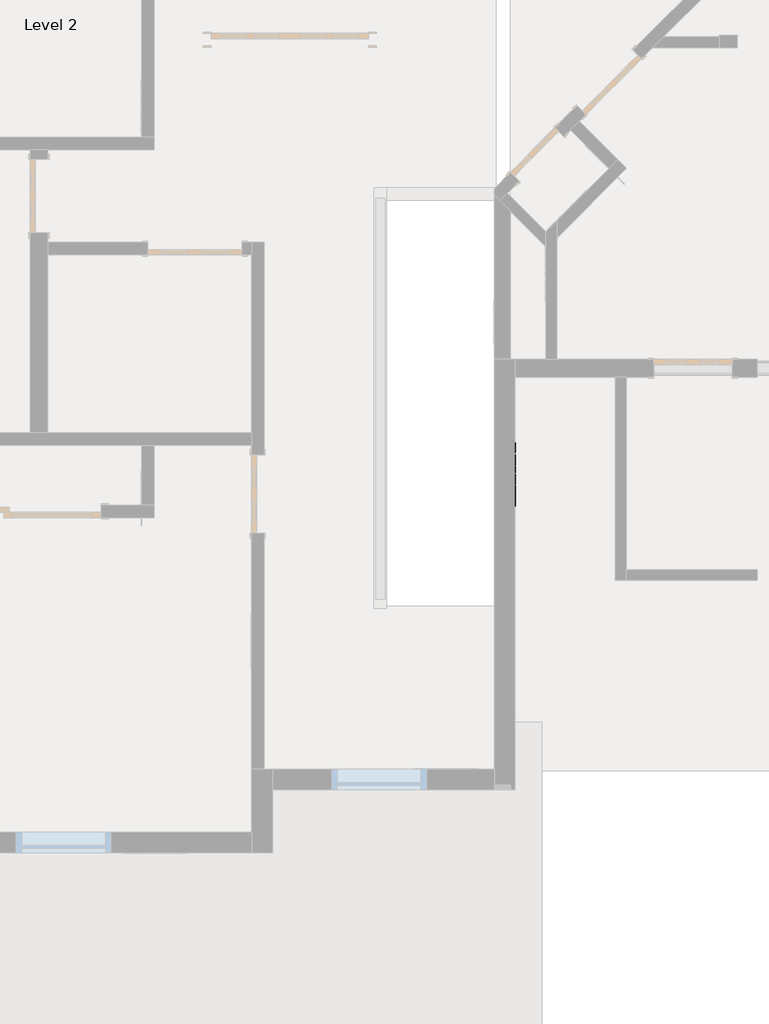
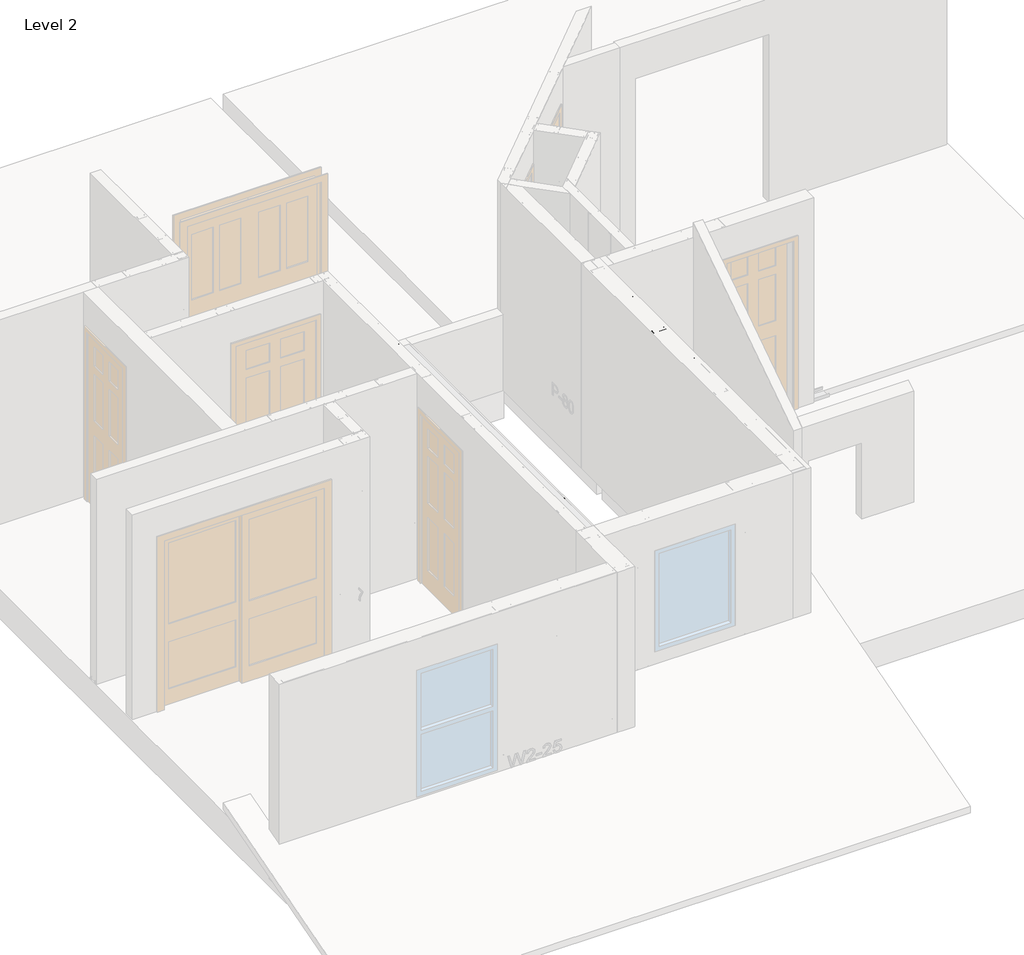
# One storey, part 14 of 46: 7 columns, 2 beams, 2 fasteners.
"""IFC4 building model written with IfcOpenShell, lengths in millimetres."""

from ifc_helpers import new_model, si_unit, point, frame, origin, place, context, project, spatial, circle_curve, ellipse_curve, trimmed, transform, mapped, element, save
from ifc_brep_helpers import plane_surface, extruded_surface, advanced_brep
from components import beam_350nf150_33_4bfafa5c, beam_550nf150_43_71bb0163, panellabel_8b51edb7, panellabel_3d57aa23

model = new_model("IFC4")

# Units and contexts
model_context = context("Model", 3, world=origin())
ifc_project = project(units=[si_unit("LENGTHUNIT", "METRE", prefix="MILLI")], contexts=[model_context])

# Site, building, storey
site = spatial("IfcSite", under=ifc_project)
building = spatial("IfcBuilding", under=site)
storey = spatial("IfcBuildingStorey", under=building, Name="Level 2", Elevation=3060.7)

# Beams
placement = place(None, origin())
beam_350nf150_33_shape = beam_350nf150_33_4bfafa5c(model_context)
element("IfcBeam", 1, ObjectType="BIMSF-SSMA-S : 350NF150-33", at=placement, inside=storey, context=model_context, shape_type="MappedRepresentation", body=[
    mapped(beam_350nf150_33_shape, transform((-11409.4913349, 6593.014721, 3076.575), x_axis=(0.0, 1.0000000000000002, 0.0), y_axis=(0.0, 0.0, -1.0000000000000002), z_axis=(-1.0000000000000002, 0.0, 0.0))),
])
beam_550nf150_43_shape = beam_550nf150_43_71bb0163(model_context)
element("IfcBeam", 2, ObjectType="BIMSF-SSMA-S : 550NF150-43", at=placement, inside=storey, context=model_context, shape_type="MappedRepresentation", body=[
    mapped(beam_550nf150_43_shape, transform((-9034.5913349, 4473.702221, 3076.575), x_axis=(0.0, -1.0000000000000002, 0.0), y_axis=(0.0, 0.0, -1.0000000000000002), z_axis=(1.0000000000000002, 0.0, 0.0))),
])

# Columns
element("IfcColumn", 3, ObjectType="BIMSF-SSMA-S-Column : 350NF150-33", at=placement, inside=storey, context=model_context, shape_type="AdvancedBrep", body=[
    advanced_brep(
    [(-11365.0413349, 6200.902221, 3061.5929687), (-11453.9413349, 6200.902221, 3061.5929687), (-11453.9413349, 6239.002221, 3061.5929687), (-11448.2838191, 6239.002221, 3061.5929687), (-11448.2838191, 6238.1199052, 3061.5929687), (-11453.0590191, 6238.1199052, 3061.5929687), (-11453.0590191, 6201.7845367, 3061.5929687), (-11365.9236507, 6201.7845367, 3061.5929687), (-11365.9236507, 6238.1199052, 3061.5929687), (-11370.6988507, 6238.1199052, 3061.5929687), (-11370.6988507, 6239.002221, 3061.5929687), (-11365.0413349, 6239.002221, 3061.5929687), (-11365.0413349, 6200.902221, 5523.6070313), (-11453.9413349, 6200.902221, 5523.6070313), (-11422.1913349, 6200.902221, 3671.1929687), (-11396.7913349, 6200.902221, 3671.1929687), (-11422.1913349, 6200.902221, 4890.3929687), (-11396.7913349, 6200.902221, 4890.3929687), (-11453.9413349, 6239.002221, 5523.6070313), (-11448.2838191, 6239.002221, 5523.6070313), (-11448.2838191, 6238.1199052, 5523.6070313), (-11453.0590191, 6238.1199052, 5523.6070313), (-11453.0590191, 6201.7845367, 5523.6070313), (-11365.9236507, 6201.7845367, 5523.6070313), (-11396.7913349, 6201.7845367, 3671.1929688), (-11422.1913349, 6201.7845367, 3671.1929688), (-11396.7913349, 6201.7845367, 4890.3929687), (-11422.1913349, 6201.7845367, 4890.3929687), (-11365.9236507, 6238.1199052, 5523.6070313), (-11370.6988507, 6238.1199052, 5523.6070313), (-11370.6988507, 6239.002221, 5523.6070313), (-11365.0413349, 6239.002221, 5523.6070313)],
    [
        (0, 1),
        (1, 2),
        (2, 3),
        (3, 4),
        (4, 5),
        (5, 6),
        (6, 7),
        (7, 8),
        (8, 9),
        (9, 10),
        (10, 11),
        (11, 0),
        (0, 12),
        (12, 13),
        (13, 1),
        (14, 15, circle_curve(frame((-11409.4913349, 6200.902221, 3671.1929687), z_axis=(0.0, 1.0, 0.0), x_axis=(-1.0, 0.0, 0.0)), 12.7)),
        (15, 14, circle_curve(frame((-11409.4913349, 6200.902221, 3671.1929688), z_axis=(0.0, 1.0, 0.0), x_axis=(-1.0, 0.0, 0.0)), 12.7)),
        (16, 17, circle_curve(frame((-11409.4913349, 6200.902221, 4890.3929687), z_axis=(0.0, 1.0, 0.0), x_axis=(-1.0, 0.0, 0.0)), 12.7)),
        (17, 16, circle_curve(frame((-11409.4913349, 6200.902221, 4890.3929687), z_axis=(0.0, 1.0, 0.0), x_axis=(-1.0, 0.0, 0.0)), 12.7)),
        (13, 18),
        (18, 2),
        (18, 19),
        (19, 3),
        (19, 20),
        (20, 4),
        (20, 21),
        (21, 5),
        (21, 22),
        (22, 6),
        (22, 23),
        (23, 7),
        (24, 25, circle_curve(frame((-11409.4913349, 6201.7845367, 3671.1929687), z_axis=(0.0, -1.0, 0.0), x_axis=(-1.0, 0.0, 0.0)), 12.7)),
        (25, 24, circle_curve(frame((-11409.4913349, 6201.7845367, 3671.1929687), z_axis=(0.0, -1.0, 0.0), x_axis=(-1.0, 0.0, 0.0)), 12.7)),
        (26, 27, circle_curve(frame((-11409.4913349, 6201.7845367, 4890.3929687), z_axis=(0.0, -1.0, 0.0), x_axis=(-1.0, 0.0, 0.0)), 12.7)),
        (27, 26, circle_curve(frame((-11409.4913349, 6201.7845367, 4890.3929687), z_axis=(0.0, -1.0, 0.0), x_axis=(-1.0, 0.0, 0.0)), 12.7)),
        (23, 28),
        (28, 8),
        (28, 29),
        (29, 9),
        (29, 30),
        (30, 10),
        (30, 31),
        (31, 11),
        (31, 12),
        (24, 15),
        (14, 25),
        (26, 17),
        (16, 27),
    ],
    [
        plane_surface(frame((-11365.0413349, 6200.902221, 3061.5929687), z_axis=(0.0, 0.0, -1.0), x_axis=(0.0, -1.0, 0.0))),
        plane_surface(frame((-11453.9413349, 6200.902221, 5523.6070313), z_axis=(0.0, -1.0, 0.0), x_axis=(0.0, 0.0, -1.0))),
        plane_surface(frame((-11453.9413349, 6239.002221, 5523.6070313), z_axis=(-1.0, 0.0, 0.0), x_axis=(0.0, 0.0, -1.0))),
        plane_surface(frame((-11448.2838191, 6239.002221, 5523.6070313), z_axis=(0.0, 1.0, 0.0), x_axis=(0.0, 0.0, -1.0))),
        plane_surface(frame((-11448.2838191, 6238.1199052, 5523.6070313), z_axis=(1.0, 0.0, 0.0), x_axis=(0.0, 0.0, -1.0))),
        plane_surface(frame((-11453.0590191, 6238.1199052, 5523.6070313), z_axis=(0.0, -1.0, 0.0), x_axis=(0.0, 0.0, -1.0))),
        plane_surface(frame((-11453.0590191, 6201.7845367, 5523.6070313), z_axis=(1.0, 0.0, 0.0), x_axis=(0.0, 0.0, -1.0))),
        plane_surface(frame((-11365.9236507, 6201.7845367, 5523.6070313), z_axis=(0.0, 1.0, 0.0), x_axis=(0.0, 0.0, -1.0))),
        plane_surface(frame((-11365.9236507, 6238.1199052, 5523.6070313), z_axis=(-1.0, 0.0, 0.0), x_axis=(0.0, 0.0, -1.0))),
        plane_surface(frame((-11370.6988507, 6238.1199052, 5523.6070313), z_axis=(0.0, -1.0, 0.0), x_axis=(0.0, 0.0, -1.0))),
        plane_surface(frame((-11370.6988507, 6239.002221, 5523.6070313), z_axis=(-1.0, 0.0, 0.0), x_axis=(0.0, 0.0, -1.0))),
        plane_surface(frame((-11365.0413349, 6239.002221, 5523.6070313), z_axis=(0.0, 1.0, 0.0), x_axis=(0.0, 0.0, -1.0))),
        plane_surface(frame((-11365.0413349, 6200.902221, 5523.6070313), z_axis=(1.0, 0.0, 0.0), x_axis=(0.0, 0.0, -1.0))),
        plane_surface(frame((-11365.0413349, 6200.902221, 5523.6070313), z_axis=(0.0, 0.0, 1.0), x_axis=(0.0, 1.0, 0.0))),
        extruded_surface(trimmed(ellipse_curve(frame((-11409.4913349, 8681.9662835, 3671.1929688), z_axis=(0.0, -1.0, 0.0), x_axis=(-1.0, 0.0, 0.0)), 12.7, 12.7), [point((-11396.7913349, 8681.9662835, 3671.1929688))], [point((-11422.1913349, 8681.9662835, 3671.1929688))], True, "CARTESIAN"), (0.0, 4924.028125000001, 0.0), 4924.028125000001),
        extruded_surface(trimmed(ellipse_curve(frame((-11409.4913349, 8681.9662835, 3671.1929688), z_axis=(0.0, -1.0, 0.0), x_axis=(-1.0, 0.0, 0.0)), 12.7, 12.7), [point((-11422.1913349, 8681.9662835, 3671.1929688))], [point((-11396.7913349, 8681.9662835, 3671.1929688))], True, "CARTESIAN"), (0.0, 4924.028125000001, 0.0), 4924.028125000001),
        extruded_surface(trimmed(ellipse_curve(frame((-11409.4913349, 8681.9662835, 4890.3929687), z_axis=(0.0, -1.0, 0.0), x_axis=(-1.0, 0.0, 0.0)), 12.7, 12.7), [point((-11396.7913349, 8681.9662835, 4890.3929687))], [point((-11422.1913349, 8681.9662835, 4890.3929687))], True, "CARTESIAN"), (0.0, 4924.028125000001, 0.0), 4924.028125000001),
        extruded_surface(trimmed(ellipse_curve(frame((-11409.4913349, 8681.9662835, 4890.3929687), z_axis=(0.0, -1.0, 0.0), x_axis=(-1.0, 0.0, 0.0)), 12.7, 12.7), [point((-11422.1913349, 8681.9662835, 4890.3929687))], [point((-11396.7913349, 8681.9662835, 4890.3929687))], True, "CARTESIAN"), (0.0, 4924.028125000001, 0.0), 4924.028125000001),
    ],
    [
        (0, [[1, 2, 3, 4, 5, 6, 7, 8, 9, 10, 11, 12]]),
        (1, [[-1, 13, 14, 15], [16, 17], [18, 19]]),
        (2, [[-2, -15, 20, 21]]),
        (3, [[-3, -21, 22, 23]]),
        (4, [[-4, -23, 24, 25]]),
        (5, [[-5, -25, 26, 27]]),
        (6, [[-6, -27, 28, 29]]),
        (7, [[-7, -29, 30, 31], [32, 33], [34, 35]]),
        (8, [[-8, -31, 36, 37]]),
        (9, [[-9, -37, 38, 39]]),
        (10, [[-10, -39, 40, 41]]),
        (11, [[-11, -41, 42, 43]]),
        (12, [[-12, -43, 44, -13]]),
        (13, [[-14, -44, -42, -40, -38, -36, -30, -28, -26, -24, -22, -20]]),
        (14, [[45, -16, 46, -32]]),
        (15, [[-45, -33, -46, -17]]),
        (16, [[47, -18, 48, -34]]),
        (17, [[-47, -35, -48, -19]]),
    ],
),
])
element("IfcColumn", 4, ObjectType="BIMSF-SSMA-S-Column : 350NF150-33", at=placement, inside=storey, context=model_context, shape_type="AdvancedBrep", body=[
    advanced_brep(
    [(-10177.5913349, 5013.1849099, 3061.5929687), (-10266.4913349, 5013.1849099, 3061.5929687), (-10266.4913349, 5051.2849099, 3061.5929687), (-10260.8338191, 5051.2849099, 3061.5929687), (-10260.8338191, 5050.4025941, 3061.5929687), (-10265.6090191, 5050.4025941, 3061.5929687), (-10265.6090191, 5014.0672257, 3061.5929687), (-10178.4736507, 5014.0672257, 3061.5929687), (-10178.4736507, 5050.4025941, 3061.5929687), (-10183.2488507, 5050.4025941, 3061.5929687), (-10183.2488507, 5051.2849099, 3061.5929687), (-10177.5913349, 5051.2849099, 3061.5929687), (-10177.5913349, 5013.1849099, 3974.2070312), (-10266.4913349, 5013.1849099, 3974.2070312), (-10234.7413349, 5013.1849099, 3671.1929688), (-10209.3413349, 5013.1849099, 3671.1929688), (-10266.4913349, 5051.2849099, 3974.2070312), (-10260.8338191, 5051.2849099, 3974.2070312), (-10260.8338191, 5050.4025941, 3974.2070312), (-10265.6090191, 5050.4025941, 3974.2070312), (-10265.6090191, 5014.0672257, 3974.2070312), (-10178.4736507, 5014.0672257, 3974.2070312), (-10209.3413349, 5014.0672257, 3671.1929688), (-10234.7413349, 5014.0672257, 3671.1929688), (-10178.4736507, 5050.4025941, 3974.2070312), (-10183.2488507, 5050.4025941, 3974.2070312), (-10183.2488507, 5051.2849099, 3974.2070312), (-10177.5913349, 5051.2849099, 3974.2070312)],
    [
        (0, 1),
        (1, 2),
        (2, 3),
        (3, 4),
        (4, 5),
        (5, 6),
        (6, 7),
        (7, 8),
        (8, 9),
        (9, 10),
        (10, 11),
        (11, 0),
        (0, 12),
        (12, 13),
        (13, 1),
        (14, 15, circle_curve(frame((-10222.0413349, 5013.1849099, 3671.1929688), z_axis=(0.0, 1.0, 0.0), x_axis=(-1.0, 0.0, 0.0)), 12.7)),
        (15, 14, circle_curve(frame((-10222.0413349, 5013.1849099, 3671.1929688), z_axis=(0.0, 1.0, 0.0), x_axis=(-1.0, 0.0, 0.0)), 12.7)),
        (13, 16),
        (16, 2),
        (16, 17),
        (17, 3),
        (17, 18),
        (18, 4),
        (18, 19),
        (19, 5),
        (19, 20),
        (20, 6),
        (20, 21),
        (21, 7),
        (22, 23, circle_curve(frame((-10222.0413349, 5014.0672257, 3671.1929688), z_axis=(0.0, -1.0, 0.0), x_axis=(-1.0, 0.0, 0.0)), 12.7)),
        (23, 22, circle_curve(frame((-10222.0413349, 5014.0672257, 3671.1929688), z_axis=(0.0, -1.0, 0.0), x_axis=(-1.0, 0.0, 0.0)), 12.7)),
        (21, 24),
        (24, 8),
        (24, 25),
        (25, 9),
        (25, 26),
        (26, 10),
        (26, 27),
        (27, 11),
        (27, 12),
        (22, 15),
        (14, 23),
    ],
    [
        plane_surface(frame((-10177.5913349, 5013.1849099, 3061.5929687), z_axis=(0.0, 0.0, -1.0), x_axis=(0.0, -1.0, 0.0))),
        plane_surface(frame((-10266.4913349, 5013.1849099, 3974.2070312), z_axis=(0.0, -1.0, 0.0), x_axis=(0.0, 0.0, -1.0))),
        plane_surface(frame((-10266.4913349, 5051.2849099, 3974.2070312), z_axis=(-1.0, 0.0, 0.0), x_axis=(0.0, 0.0, -1.0))),
        plane_surface(frame((-10260.8338191, 5051.2849099, 3974.2070312), z_axis=(0.0, 1.0, 0.0), x_axis=(0.0, 0.0, -1.0))),
        plane_surface(frame((-10260.8338191, 5050.4025941, 3974.2070312), z_axis=(1.0, 0.0, 0.0), x_axis=(0.0, 0.0, -1.0))),
        plane_surface(frame((-10265.6090191, 5050.4025941, 3974.2070312), z_axis=(0.0, -1.0, 0.0), x_axis=(0.0, 0.0, -1.0))),
        plane_surface(frame((-10265.6090191, 5014.0672257, 3974.2070312), z_axis=(1.0, 0.0, 0.0), x_axis=(0.0, 0.0, -1.0))),
        plane_surface(frame((-10178.4736507, 5014.0672257, 3974.2070312), z_axis=(0.0, 1.0, 0.0), x_axis=(0.0, 0.0, -1.0))),
        plane_surface(frame((-10178.4736507, 5050.4025941, 3974.2070312), z_axis=(-1.0, 0.0, 0.0), x_axis=(0.0, 0.0, -1.0))),
        plane_surface(frame((-10183.2488507, 5050.4025941, 3974.2070312), z_axis=(0.0, -1.0, 0.0), x_axis=(0.0, 0.0, -1.0))),
        plane_surface(frame((-10183.2488507, 5051.2849099, 3974.2070312), z_axis=(-1.0, 0.0, 0.0), x_axis=(0.0, 0.0, -1.0))),
        plane_surface(frame((-10177.5913349, 5051.2849099, 3974.2070312), z_axis=(0.0, 1.0, 0.0), x_axis=(0.0, 0.0, -1.0))),
        plane_surface(frame((-10177.5913349, 5013.1849099, 3974.2070312), z_axis=(1.0, 0.0, 0.0), x_axis=(0.0, 0.0, -1.0))),
        plane_surface(frame((-10177.5913349, 5013.1849099, 3974.2070312), z_axis=(0.0, 0.0, 1.0), x_axis=(0.0, 1.0, 0.0))),
        extruded_surface(trimmed(ellipse_curve(frame((-10222.0413349, 5944.8489724, 3671.1929688), z_axis=(0.0, -1.0, 0.0), x_axis=(-1.0, 0.0, 0.0)), 12.7, 12.7), [point((-10209.3413349, 5944.8489724, 3671.1929688))], [point((-10234.7413349, 5944.8489724, 3671.1929688))], True, "CARTESIAN"), (0.0, 1825.2281249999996, 0.0), 1825.2281249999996),
        extruded_surface(trimmed(ellipse_curve(frame((-10222.0413349, 5944.8489724, 3671.1929688), z_axis=(0.0, -1.0, 0.0), x_axis=(-1.0, 0.0, 0.0)), 12.7, 12.7), [point((-10234.7413349, 5944.8489724, 3671.1929688))], [point((-10209.3413349, 5944.8489724, 3671.1929688))], True, "CARTESIAN"), (0.0, 1825.2281249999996, 0.0), 1825.2281249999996),
    ],
    [
        (0, [[1, 2, 3, 4, 5, 6, 7, 8, 9, 10, 11, 12]]),
        (1, [[-1, 13, 14, 15], [16, 17]]),
        (2, [[-2, -15, 18, 19]]),
        (3, [[-3, -19, 20, 21]]),
        (4, [[-4, -21, 22, 23]]),
        (5, [[-5, -23, 24, 25]]),
        (6, [[-6, -25, 26, 27]]),
        (7, [[-7, -27, 28, 29], [30, 31]]),
        (8, [[-8, -29, 32, 33]]),
        (9, [[-9, -33, 34, 35]]),
        (10, [[-10, -35, 36, 37]]),
        (11, [[-11, -37, 38, 39]]),
        (12, [[-12, -39, 40, -13]]),
        (13, [[-14, -40, -38, -36, -34, -32, -28, -26, -24, -22, -20, -18]]),
        (14, [[41, -16, 42, -30]]),
        (15, [[-41, -31, -42, -17]]),
    ],
),
])
element("IfcColumn", 5, ObjectType="BIMSF-SSMA-S-Column : 350NF150-33", at=placement, inside=storey, context=model_context, shape_type="AdvancedBrep", body=[
    advanced_brep(
    [(-10177.5913349, 5419.5849099, 3061.5929687), (-10266.4913349, 5419.5849099, 3061.5929687), (-10266.4913349, 5457.6849099, 3061.5929687), (-10260.8338191, 5457.6849099, 3061.5929687), (-10260.8338191, 5456.8025941, 3061.5929687), (-10265.6090191, 5456.8025941, 3061.5929687), (-10265.6090191, 5420.4672257, 3061.5929687), (-10178.4736507, 5420.4672257, 3061.5929687), (-10178.4736507, 5456.8025941, 3061.5929687), (-10183.2488507, 5456.8025941, 3061.5929687), (-10183.2488507, 5457.6849099, 3061.5929687), (-10177.5913349, 5457.6849099, 3061.5929687), (-10177.5913349, 5419.5849099, 3974.2070312), (-10266.4913349, 5419.5849099, 3974.2070312), (-10234.7413349, 5419.5849099, 3671.1929688), (-10209.3413349, 5419.5849099, 3671.1929688), (-10266.4913349, 5457.6849099, 3974.2070312), (-10260.8338191, 5457.6849099, 3974.2070312), (-10260.8338191, 5456.8025941, 3974.2070312), (-10265.6090191, 5456.8025941, 3974.2070312), (-10265.6090191, 5420.4672257, 3974.2070312), (-10178.4736507, 5420.4672257, 3974.2070312), (-10209.3413349, 5420.4672257, 3671.1929688), (-10234.7413349, 5420.4672257, 3671.1929688), (-10178.4736507, 5456.8025941, 3974.2070312), (-10183.2488507, 5456.8025941, 3974.2070312), (-10183.2488507, 5457.6849099, 3974.2070312), (-10177.5913349, 5457.6849099, 3974.2070312)],
    [
        (0, 1),
        (1, 2),
        (2, 3),
        (3, 4),
        (4, 5),
        (5, 6),
        (6, 7),
        (7, 8),
        (8, 9),
        (9, 10),
        (10, 11),
        (11, 0),
        (0, 12),
        (12, 13),
        (13, 1),
        (14, 15, circle_curve(frame((-10222.0413349, 5419.5849099, 3671.1929688), z_axis=(0.0, 1.0, 0.0), x_axis=(-1.0, 0.0, 0.0)), 12.7)),
        (15, 14, circle_curve(frame((-10222.0413349, 5419.5849099, 3671.1929688), z_axis=(0.0, 1.0, 0.0), x_axis=(-1.0, 0.0, 0.0)), 12.7)),
        (13, 16),
        (16, 2),
        (16, 17),
        (17, 3),
        (17, 18),
        (18, 4),
        (18, 19),
        (19, 5),
        (19, 20),
        (20, 6),
        (20, 21),
        (21, 7),
        (22, 23, circle_curve(frame((-10222.0413349, 5420.4672257, 3671.1929688), z_axis=(0.0, -1.0, 0.0), x_axis=(-1.0, 0.0, 0.0)), 12.7)),
        (23, 22, circle_curve(frame((-10222.0413349, 5420.4672257, 3671.1929688), z_axis=(0.0, -1.0, 0.0), x_axis=(-1.0, 0.0, 0.0)), 12.7)),
        (21, 24),
        (24, 8),
        (24, 25),
        (25, 9),
        (25, 26),
        (26, 10),
        (26, 27),
        (27, 11),
        (27, 12),
        (22, 15),
        (14, 23),
    ],
    [
        plane_surface(frame((-10177.5913349, 5419.5849099, 3061.5929687), z_axis=(0.0, 0.0, -1.0), x_axis=(0.0, -1.0, 0.0))),
        plane_surface(frame((-10266.4913349, 5419.5849099, 3974.2070312), z_axis=(0.0, -1.0, 0.0), x_axis=(0.0, 0.0, -1.0))),
        plane_surface(frame((-10266.4913349, 5457.6849099, 3974.2070312), z_axis=(-1.0, 0.0, 0.0), x_axis=(0.0, 0.0, -1.0))),
        plane_surface(frame((-10260.8338191, 5457.6849099, 3974.2070312), z_axis=(0.0, 1.0, 0.0), x_axis=(0.0, 0.0, -1.0))),
        plane_surface(frame((-10260.8338191, 5456.8025941, 3974.2070312), z_axis=(1.0, 0.0, 0.0), x_axis=(0.0, 0.0, -1.0))),
        plane_surface(frame((-10265.6090191, 5456.8025941, 3974.2070312), z_axis=(0.0, -1.0, 0.0), x_axis=(0.0, 0.0, -1.0))),
        plane_surface(frame((-10265.6090191, 5420.4672257, 3974.2070312), z_axis=(1.0, 0.0, 0.0), x_axis=(0.0, 0.0, -1.0))),
        plane_surface(frame((-10178.4736507, 5420.4672257, 3974.2070312), z_axis=(0.0, 1.0, 0.0), x_axis=(0.0, 0.0, -1.0))),
        plane_surface(frame((-10178.4736507, 5456.8025941, 3974.2070312), z_axis=(-1.0, 0.0, 0.0), x_axis=(0.0, 0.0, -1.0))),
        plane_surface(frame((-10183.2488507, 5456.8025941, 3974.2070312), z_axis=(0.0, -1.0, 0.0), x_axis=(0.0, 0.0, -1.0))),
        plane_surface(frame((-10183.2488507, 5457.6849099, 3974.2070312), z_axis=(-1.0, 0.0, 0.0), x_axis=(0.0, 0.0, -1.0))),
        plane_surface(frame((-10177.5913349, 5457.6849099, 3974.2070312), z_axis=(0.0, 1.0, 0.0), x_axis=(0.0, 0.0, -1.0))),
        plane_surface(frame((-10177.5913349, 5419.5849099, 3974.2070312), z_axis=(1.0, 0.0, 0.0), x_axis=(0.0, 0.0, -1.0))),
        plane_surface(frame((-10177.5913349, 5419.5849099, 3974.2070312), z_axis=(0.0, 0.0, 1.0), x_axis=(0.0, 1.0, 0.0))),
        extruded_surface(trimmed(ellipse_curve(frame((-10222.0413349, 6351.2489724, 3671.1929688), z_axis=(0.0, -1.0, 0.0), x_axis=(-1.0, 0.0, 0.0)), 12.7, 12.7), [point((-10209.3413349, 6351.2489724, 3671.1929688))], [point((-10234.7413349, 6351.2489724, 3671.1929688))], True, "CARTESIAN"), (0.0, 1825.2281250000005, 0.0), 1825.2281250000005),
        extruded_surface(trimmed(ellipse_curve(frame((-10222.0413349, 6351.2489724, 3671.1929688), z_axis=(0.0, -1.0, 0.0), x_axis=(-1.0, 0.0, 0.0)), 12.7, 12.7), [point((-10234.7413349, 6351.2489724, 3671.1929688))], [point((-10209.3413349, 6351.2489724, 3671.1929688))], True, "CARTESIAN"), (0.0, 1825.2281250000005, 0.0), 1825.2281250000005),
    ],
    [
        (0, [[1, 2, 3, 4, 5, 6, 7, 8, 9, 10, 11, 12]]),
        (1, [[-1, 13, 14, 15], [16, 17]]),
        (2, [[-2, -15, 18, 19]]),
        (3, [[-3, -19, 20, 21]]),
        (4, [[-4, -21, 22, 23]]),
        (5, [[-5, -23, 24, 25]]),
        (6, [[-6, -25, 26, 27]]),
        (7, [[-7, -27, 28, 29], [30, 31]]),
        (8, [[-8, -29, 32, 33]]),
        (9, [[-9, -33, 34, 35]]),
        (10, [[-10, -35, 36, 37]]),
        (11, [[-11, -37, 38, 39]]),
        (12, [[-12, -39, 40, -13]]),
        (13, [[-14, -40, -38, -36, -34, -32, -28, -26, -24, -22, -20, -18]]),
        (14, [[41, -16, 42, -30]]),
        (15, [[-41, -31, -42, -17]]),
    ],
),
])
element("IfcColumn", 6, ObjectType="BIMSF-SSMA-S-Column : 350NF150-33", at=placement, inside=storey, context=model_context, shape_type="AdvancedBrep", body=[
    advanced_brep(
    [(-10177.5913349, 5825.9849099, 3061.5929687), (-10266.4913349, 5825.9849099, 3061.5929687), (-10266.4913349, 5864.0849099, 3061.5929687), (-10260.8338191, 5864.0849099, 3061.5929687), (-10260.8338191, 5863.2025941, 3061.5929687), (-10265.6090191, 5863.2025941, 3061.5929687), (-10265.6090191, 5826.8672257, 3061.5929687), (-10178.4736507, 5826.8672257, 3061.5929687), (-10178.4736507, 5863.2025941, 3061.5929687), (-10183.2488507, 5863.2025941, 3061.5929687), (-10183.2488507, 5864.0849099, 3061.5929687), (-10177.5913349, 5864.0849099, 3061.5929687), (-10177.5913349, 5825.9849099, 3974.2070312), (-10266.4913349, 5825.9849099, 3974.2070312), (-10234.7413349, 5825.9849099, 3671.1929688), (-10209.3413349, 5825.9849099, 3671.1929688), (-10266.4913349, 5864.0849099, 3974.2070312), (-10260.8338191, 5864.0849099, 3974.2070312), (-10260.8338191, 5863.2025941, 3974.2070312), (-10265.6090191, 5863.2025941, 3974.2070312), (-10265.6090191, 5826.8672257, 3974.2070312), (-10178.4736507, 5826.8672257, 3974.2070312), (-10209.3413349, 5826.8672257, 3671.1929688), (-10234.7413349, 5826.8672257, 3671.1929688), (-10178.4736507, 5863.2025941, 3974.2070312), (-10183.2488507, 5863.2025941, 3974.2070312), (-10183.2488507, 5864.0849099, 3974.2070312), (-10177.5913349, 5864.0849099, 3974.2070312)],
    [
        (0, 1),
        (1, 2),
        (2, 3),
        (3, 4),
        (4, 5),
        (5, 6),
        (6, 7),
        (7, 8),
        (8, 9),
        (9, 10),
        (10, 11),
        (11, 0),
        (0, 12),
        (12, 13),
        (13, 1),
        (14, 15, circle_curve(frame((-10222.0413349, 5825.9849099, 3671.1929687), z_axis=(0.0, 1.0, 0.0), x_axis=(-1.0, 0.0, 0.0)), 12.7)),
        (15, 14, circle_curve(frame((-10222.0413349, 5825.9849099, 3671.1929688), z_axis=(0.0, 1.0, 0.0), x_axis=(-1.0, 0.0, 0.0)), 12.7)),
        (13, 16),
        (16, 2),
        (16, 17),
        (17, 3),
        (17, 18),
        (18, 4),
        (18, 19),
        (19, 5),
        (19, 20),
        (20, 6),
        (20, 21),
        (21, 7),
        (22, 23, circle_curve(frame((-10222.0413349, 5826.8672257, 3671.1929688), z_axis=(0.0, -1.0, 0.0), x_axis=(-1.0, 0.0, 0.0)), 12.7)),
        (23, 22, circle_curve(frame((-10222.0413349, 5826.8672257, 3671.1929688), z_axis=(0.0, -1.0, 0.0), x_axis=(-1.0, 0.0, 0.0)), 12.7)),
        (21, 24),
        (24, 8),
        (24, 25),
        (25, 9),
        (25, 26),
        (26, 10),
        (26, 27),
        (27, 11),
        (27, 12),
        (22, 15),
        (14, 23),
    ],
    [
        plane_surface(frame((-10177.5913349, 5825.9849099, 3061.5929687), z_axis=(0.0, 0.0, -1.0), x_axis=(0.0, -1.0, 0.0))),
        plane_surface(frame((-10266.4913349, 5825.9849099, 3974.2070312), z_axis=(0.0, -1.0, 0.0), x_axis=(0.0, 0.0, -1.0))),
        plane_surface(frame((-10266.4913349, 5864.0849099, 3974.2070312), z_axis=(-1.0, 0.0, 0.0), x_axis=(0.0, 0.0, -1.0))),
        plane_surface(frame((-10260.8338191, 5864.0849099, 3974.2070312), z_axis=(0.0, 1.0, 0.0), x_axis=(0.0, 0.0, -1.0))),
        plane_surface(frame((-10260.8338191, 5863.2025941, 3974.2070312), z_axis=(1.0, 0.0, 0.0), x_axis=(0.0, 0.0, -1.0))),
        plane_surface(frame((-10265.6090191, 5863.2025941, 3974.2070312), z_axis=(0.0, -1.0, 0.0), x_axis=(0.0, 0.0, -1.0))),
        plane_surface(frame((-10265.6090191, 5826.8672257, 3974.2070312), z_axis=(1.0, 0.0, 0.0), x_axis=(0.0, 0.0, -1.0))),
        plane_surface(frame((-10178.4736507, 5826.8672257, 3974.2070312), z_axis=(0.0, 1.0, 0.0), x_axis=(0.0, 0.0, -1.0))),
        plane_surface(frame((-10178.4736507, 5863.2025941, 3974.2070312), z_axis=(-1.0, 0.0, 0.0), x_axis=(0.0, 0.0, -1.0))),
        plane_surface(frame((-10183.2488507, 5863.2025941, 3974.2070312), z_axis=(0.0, -1.0, 0.0), x_axis=(0.0, 0.0, -1.0))),
        plane_surface(frame((-10183.2488507, 5864.0849099, 3974.2070312), z_axis=(-1.0, 0.0, 0.0), x_axis=(0.0, 0.0, -1.0))),
        plane_surface(frame((-10177.5913349, 5864.0849099, 3974.2070312), z_axis=(0.0, 1.0, 0.0), x_axis=(0.0, 0.0, -1.0))),
        plane_surface(frame((-10177.5913349, 5825.9849099, 3974.2070312), z_axis=(1.0, 0.0, 0.0), x_axis=(0.0, 0.0, -1.0))),
        plane_surface(frame((-10177.5913349, 5825.9849099, 3974.2070312), z_axis=(0.0, 0.0, 1.0), x_axis=(0.0, 1.0, 0.0))),
        extruded_surface(trimmed(ellipse_curve(frame((-10222.0413349, 6757.6489724, 3671.1929688), z_axis=(0.0, -1.0, 0.0), x_axis=(-1.0, 0.0, 0.0)), 12.7, 12.7), [point((-10209.3413349, 6757.6489724, 3671.1929688))], [point((-10234.7413349, 6757.6489724, 3671.1929688))], True, "CARTESIAN"), (0.0, 1825.2281249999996, 0.0), 1825.2281249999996),
        extruded_surface(trimmed(ellipse_curve(frame((-10222.0413349, 6757.6489724, 3671.1929688), z_axis=(0.0, -1.0, 0.0), x_axis=(-1.0, 0.0, 0.0)), 12.7, 12.7), [point((-10234.7413349, 6757.6489724, 3671.1929688))], [point((-10209.3413349, 6757.6489724, 3671.1929688))], True, "CARTESIAN"), (0.0, 1825.2281249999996, 0.0), 1825.2281249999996),
    ],
    [
        (0, [[1, 2, 3, 4, 5, 6, 7, 8, 9, 10, 11, 12]]),
        (1, [[-1, 13, 14, 15], [16, 17]]),
        (2, [[-2, -15, 18, 19]]),
        (3, [[-3, -19, 20, 21]]),
        (4, [[-4, -21, 22, 23]]),
        (5, [[-5, -23, 24, 25]]),
        (6, [[-6, -25, 26, 27]]),
        (7, [[-7, -27, 28, 29], [30, 31]]),
        (8, [[-8, -29, 32, 33]]),
        (9, [[-9, -33, 34, 35]]),
        (10, [[-10, -35, 36, 37]]),
        (11, [[-11, -37, 38, 39]]),
        (12, [[-12, -39, 40, -13]]),
        (13, [[-14, -40, -38, -36, -34, -32, -28, -26, -24, -22, -20, -18]]),
        (14, [[41, -16, 42, -30]]),
        (15, [[-41, -31, -42, -17]]),
    ],
),
])
element("IfcColumn", 7, ObjectType="BIMSF-SSMA-S-Column : 550NF150-43", at=placement, inside=storey, context=model_context, shape_type="AdvancedBrep", body=[
    advanced_brep(
    [(-8964.7413349, 5756.402221, 3061.5929687), (-9104.4413349, 5756.402221, 3061.5929687), (-9104.4413349, 5794.502221, 3061.5929687), (-9098.5164507, 5794.502221, 3061.5929687), (-9098.5164507, 5793.3525367, 3061.5929687), (-9103.2916507, 5793.3525367, 3061.5929687), (-9103.2916507, 5757.5519052, 3061.5929687), (-8965.8910191, 5757.5519052, 3061.5929687), (-8965.8910191, 5793.3525367, 3061.5929687), (-8970.6662191, 5793.3525367, 3061.5929687), (-8970.6662191, 5794.502221, 3061.5929687), (-8964.7413349, 5794.502221, 3061.5929687), (-8964.7413349, 5756.402221, 5523.6070313), (-9104.4413349, 5756.402221, 5523.6070313), (-9047.2913349, 5756.402221, 3671.1929688), (-9021.8913349, 5756.402221, 3671.1929688), (-9047.2913349, 5756.402221, 4890.3929687), (-9021.8913349, 5756.402221, 4890.3929687), (-9104.4413349, 5794.502221, 5523.6070313), (-9098.5164507, 5794.502221, 5523.6070313), (-9098.5164507, 5793.3525367, 5523.6070313), (-9103.2916507, 5793.3525367, 5523.6070313), (-9103.2916507, 5757.5519052, 5523.6070313), (-8965.8910191, 5757.5519052, 5523.6070313), (-9021.8913349, 5757.5519052, 3671.1929688), (-9047.2913349, 5757.5519052, 3671.1929688), (-9021.8913349, 5757.5519052, 4890.3929688), (-9047.2913349, 5757.5519052, 4890.3929688), (-8965.8910191, 5793.3525367, 5523.6070313), (-8970.6662191, 5793.3525367, 5523.6070313), (-8970.6662191, 5794.502221, 5523.6070313), (-8964.7413349, 5794.502221, 5523.6070313)],
    [
        (0, 1),
        (1, 2),
        (2, 3),
        (3, 4),
        (4, 5),
        (5, 6),
        (6, 7),
        (7, 8),
        (8, 9),
        (9, 10),
        (10, 11),
        (11, 0),
        (0, 12),
        (12, 13),
        (13, 1),
        (14, 15, circle_curve(frame((-9034.5913349, 5756.402221, 3671.1929688), z_axis=(0.0, 1.0, 0.0), x_axis=(-1.0, 0.0, 0.0)), 12.7)),
        (15, 14, circle_curve(frame((-9034.5913349, 5756.402221, 3671.1929688), z_axis=(0.0, 1.0, 0.0), x_axis=(-1.0, 0.0, 0.0)), 12.7)),
        (16, 17, circle_curve(frame((-9034.5913349, 5756.402221, 4890.3929687), z_axis=(0.0, 1.0, 0.0), x_axis=(-1.0, 0.0, 0.0)), 12.7)),
        (17, 16, circle_curve(frame((-9034.5913349, 5756.402221, 4890.3929687), z_axis=(0.0, 1.0, 0.0), x_axis=(-1.0, 0.0, 0.0)), 12.7)),
        (13, 18),
        (18, 2),
        (18, 19),
        (19, 3),
        (19, 20),
        (20, 4),
        (20, 21),
        (21, 5),
        (21, 22),
        (22, 6),
        (22, 23),
        (23, 7),
        (24, 25, circle_curve(frame((-9034.5913349, 5757.5519052, 3671.1929687), z_axis=(0.0, -1.0, 0.0), x_axis=(-1.0, 0.0, 0.0)), 12.7)),
        (25, 24, circle_curve(frame((-9034.5913349, 5757.5519052, 3671.1929687), z_axis=(0.0, -1.0, 0.0), x_axis=(-1.0, 0.0, 0.0)), 12.7)),
        (26, 27, circle_curve(frame((-9034.5913349, 5757.5519052, 4890.3929687), z_axis=(0.0, -1.0, 0.0), x_axis=(-1.0, 0.0, 0.0)), 12.7)),
        (27, 26, circle_curve(frame((-9034.5913349, 5757.5519052, 4890.3929687), z_axis=(0.0, -1.0, 0.0), x_axis=(-1.0, 0.0, 0.0)), 12.7)),
        (23, 28),
        (28, 8),
        (28, 29),
        (29, 9),
        (29, 30),
        (30, 10),
        (30, 31),
        (31, 11),
        (31, 12),
        (24, 15),
        (14, 25),
        (26, 17),
        (16, 27),
    ],
    [
        plane_surface(frame((-8964.7413349, 5756.402221, 3061.5929687), z_axis=(0.0, 0.0, -1.0), x_axis=(0.0, -1.0, 0.0))),
        plane_surface(frame((-9104.4413349, 5756.402221, 5523.6070313), z_axis=(0.0, -1.0, 0.0), x_axis=(0.0, 0.0, -1.0))),
        plane_surface(frame((-9104.4413349, 5794.502221, 5523.6070313), z_axis=(-1.0, 0.0, 0.0), x_axis=(0.0, 0.0, -1.0))),
        plane_surface(frame((-9098.5164507, 5794.502221, 5523.6070313), z_axis=(0.0, 1.0, 0.0), x_axis=(0.0, 0.0, -1.0))),
        plane_surface(frame((-9098.5164507, 5793.3525367, 5523.6070313), z_axis=(1.0, 0.0, 0.0), x_axis=(0.0, 0.0, -1.0))),
        plane_surface(frame((-9103.2916507, 5793.3525367, 5523.6070313), z_axis=(0.0, -1.0, 0.0), x_axis=(0.0, 0.0, -1.0))),
        plane_surface(frame((-9103.2916507, 5757.5519052, 5523.6070313), z_axis=(1.0, 0.0, 0.0), x_axis=(0.0, 0.0, -1.0))),
        plane_surface(frame((-8965.8910191, 5757.5519052, 5523.6070313), z_axis=(0.0, 1.0, 0.0), x_axis=(0.0, 0.0, -1.0))),
        plane_surface(frame((-8965.8910191, 5793.3525367, 5523.6070313), z_axis=(-1.0, 0.0, 0.0), x_axis=(0.0, 0.0, -1.0))),
        plane_surface(frame((-8970.6662191, 5793.3525367, 5523.6070313), z_axis=(0.0, -1.0, 0.0), x_axis=(0.0, 0.0, -1.0))),
        plane_surface(frame((-8970.6662191, 5794.502221, 5523.6070313), z_axis=(-1.0, 0.0, 0.0), x_axis=(0.0, 0.0, -1.0))),
        plane_surface(frame((-8964.7413349, 5794.502221, 5523.6070313), z_axis=(0.0, 1.0, 0.0), x_axis=(0.0, 0.0, -1.0))),
        plane_surface(frame((-8964.7413349, 5756.402221, 5523.6070313), z_axis=(1.0, 0.0, 0.0), x_axis=(0.0, 0.0, -1.0))),
        plane_surface(frame((-8964.7413349, 5756.402221, 5523.6070313), z_axis=(0.0, 0.0, 1.0), x_axis=(0.0, 1.0, 0.0))),
        extruded_surface(trimmed(ellipse_curve(frame((-9034.5913349, 8237.4662835, 3671.1929688), z_axis=(0.0, -1.0, 0.0), x_axis=(-1.0, 0.0, 0.0)), 12.7, 12.7), [point((-9021.8913349, 8237.4662835, 3671.1929688))], [point((-9047.2913349, 8237.4662835, 3671.1929688))], True, "CARTESIAN"), (0.0, 4924.028125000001, 0.0), 4924.028125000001),
        extruded_surface(trimmed(ellipse_curve(frame((-9034.5913349, 8237.4662835, 3671.1929688), z_axis=(0.0, -1.0, 0.0), x_axis=(-1.0, 0.0, 0.0)), 12.7, 12.7), [point((-9047.2913349, 8237.4662835, 3671.1929688))], [point((-9021.8913349, 8237.4662835, 3671.1929688))], True, "CARTESIAN"), (0.0, 4924.028125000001, 0.0), 4924.028125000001),
        extruded_surface(trimmed(ellipse_curve(frame((-9034.5913349, 8237.4662835, 4890.3929687), z_axis=(0.0, -1.0, 0.0), x_axis=(-1.0, 0.0, 0.0)), 12.7, 12.7), [point((-9021.8913349, 8237.4662835, 4890.3929687))], [point((-9047.2913349, 8237.4662835, 4890.3929687))], True, "CARTESIAN"), (0.0, 4924.028125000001, 0.0), 4924.028125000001),
        extruded_surface(trimmed(ellipse_curve(frame((-9034.5913349, 8237.4662835, 4890.3929687), z_axis=(0.0, -1.0, 0.0), x_axis=(-1.0, 0.0, 0.0)), 12.7, 12.7), [point((-9047.2913349, 8237.4662835, 4890.3929687))], [point((-9021.8913349, 8237.4662835, 4890.3929687))], True, "CARTESIAN"), (0.0, 4924.028125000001, 0.0), 4924.028125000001),
    ],
    [
        (0, [[1, 2, 3, 4, 5, 6, 7, 8, 9, 10, 11, 12]]),
        (1, [[-1, 13, 14, 15], [16, 17], [18, 19]]),
        (2, [[-2, -15, 20, 21]]),
        (3, [[-3, -21, 22, 23]]),
        (4, [[-4, -23, 24, 25]]),
        (5, [[-5, -25, 26, 27]]),
        (6, [[-6, -27, 28, 29]]),
        (7, [[-7, -29, 30, 31], [32, 33], [34, 35]]),
        (8, [[-8, -31, 36, 37]]),
        (9, [[-9, -37, 38, 39]]),
        (10, [[-10, -39, 40, 41]]),
        (11, [[-11, -41, 42, 43]]),
        (12, [[-12, -43, 44, -13]]),
        (13, [[-14, -44, -42, -40, -38, -36, -30, -28, -26, -24, -22, -20]]),
        (14, [[45, -16, 46, -32]]),
        (15, [[-45, -33, -46, -17]]),
        (16, [[47, -18, 48, -34]]),
        (17, [[-47, -35, -48, -19]]),
    ],
),
])
element("IfcColumn", 8, ObjectType="BIMSF-SSMA-S-Column : 550NF150-43", at=placement, inside=storey, context=model_context, shape_type="AdvancedBrep", body=[
    advanced_brep(
    [(-8964.7413349, 5146.802221, 3061.5929687), (-9104.4413349, 5146.802221, 3061.5929687), (-9104.4413349, 5184.902221, 3061.5929687), (-9098.5164507, 5184.902221, 3061.5929687), (-9098.5164507, 5183.7525367, 3061.5929687), (-9103.2916507, 5183.7525367, 3061.5929687), (-9103.2916507, 5147.9519052, 3061.5929687), (-8965.8910191, 5147.9519052, 3061.5929687), (-8965.8910191, 5183.7525367, 3061.5929687), (-8970.6662191, 5183.7525367, 3061.5929687), (-8970.6662191, 5184.902221, 3061.5929687), (-8964.7413349, 5184.902221, 3061.5929687), (-8964.7413349, 5146.802221, 5523.6070313), (-9104.4413349, 5146.802221, 5523.6070313), (-9047.2913349, 5146.802221, 3671.1929688), (-9021.8913349, 5146.802221, 3671.1929688), (-9047.2913349, 5146.802221, 4890.3929687), (-9021.8913349, 5146.802221, 4890.3929687), (-9104.4413349, 5184.902221, 5523.6070313), (-9098.5164507, 5184.902221, 5523.6070313), (-9098.5164507, 5183.7525367, 5523.6070313), (-9103.2916507, 5183.7525367, 5523.6070313), (-9103.2916507, 5147.9519052, 5523.6070313), (-8965.8910191, 5147.9519052, 5523.6070313), (-9021.8913349, 5147.9519052, 3671.1929688), (-9047.2913349, 5147.9519052, 3671.1929688), (-9021.8913349, 5147.9519052, 4890.3929688), (-9047.2913349, 5147.9519052, 4890.3929688), (-8965.8910191, 5183.7525367, 5523.6070313), (-8970.6662191, 5183.7525367, 5523.6070313), (-8970.6662191, 5184.902221, 5523.6070313), (-8964.7413349, 5184.902221, 5523.6070313)],
    [
        (0, 1),
        (1, 2),
        (2, 3),
        (3, 4),
        (4, 5),
        (5, 6),
        (6, 7),
        (7, 8),
        (8, 9),
        (9, 10),
        (10, 11),
        (11, 0),
        (0, 12),
        (12, 13),
        (13, 1),
        (14, 15, circle_curve(frame((-9034.5913349, 5146.802221, 3671.1929688), z_axis=(0.0, 1.0, 0.0), x_axis=(-1.0, 0.0, 0.0)), 12.7)),
        (15, 14, circle_curve(frame((-9034.5913349, 5146.802221, 3671.1929688), z_axis=(0.0, 1.0, 0.0), x_axis=(-1.0, 0.0, 0.0)), 12.7)),
        (16, 17, circle_curve(frame((-9034.5913349, 5146.802221, 4890.3929687), z_axis=(0.0, 1.0, 0.0), x_axis=(-1.0, 0.0, 0.0)), 12.7)),
        (17, 16, circle_curve(frame((-9034.5913349, 5146.802221, 4890.3929687), z_axis=(0.0, 1.0, 0.0), x_axis=(-1.0, 0.0, 0.0)), 12.7)),
        (13, 18),
        (18, 2),
        (18, 19),
        (19, 3),
        (19, 20),
        (20, 4),
        (20, 21),
        (21, 5),
        (21, 22),
        (22, 6),
        (22, 23),
        (23, 7),
        (24, 25, circle_curve(frame((-9034.5913349, 5147.9519052, 3671.1929687), z_axis=(0.0, -1.0, 0.0), x_axis=(-1.0, 0.0, 0.0)), 12.7)),
        (25, 24, circle_curve(frame((-9034.5913349, 5147.9519052, 3671.1929687), z_axis=(0.0, -1.0, 0.0), x_axis=(-1.0, 0.0, 0.0)), 12.7)),
        (26, 27, circle_curve(frame((-9034.5913349, 5147.9519052, 4890.3929687), z_axis=(0.0, -1.0, 0.0), x_axis=(-1.0, 0.0, 0.0)), 12.7)),
        (27, 26, circle_curve(frame((-9034.5913349, 5147.9519052, 4890.3929687), z_axis=(0.0, -1.0, 0.0), x_axis=(-1.0, 0.0, 0.0)), 12.7)),
        (23, 28),
        (28, 8),
        (28, 29),
        (29, 9),
        (29, 30),
        (30, 10),
        (30, 31),
        (31, 11),
        (31, 12),
        (24, 15),
        (14, 25),
        (26, 17),
        (16, 27),
    ],
    [
        plane_surface(frame((-8964.7413349, 5146.802221, 3061.5929687), z_axis=(0.0, 0.0, -1.0), x_axis=(0.0, -1.0, 0.0))),
        plane_surface(frame((-9104.4413349, 5146.802221, 5523.6070313), z_axis=(0.0, -1.0, 0.0), x_axis=(0.0, 0.0, -1.0))),
        plane_surface(frame((-9104.4413349, 5184.902221, 5523.6070313), z_axis=(-1.0, 0.0, 0.0), x_axis=(0.0, 0.0, -1.0))),
        plane_surface(frame((-9098.5164507, 5184.902221, 5523.6070313), z_axis=(0.0, 1.0, 0.0), x_axis=(0.0, 0.0, -1.0))),
        plane_surface(frame((-9098.5164507, 5183.7525367, 5523.6070313), z_axis=(1.0, 0.0, 0.0), x_axis=(0.0, 0.0, -1.0))),
        plane_surface(frame((-9103.2916507, 5183.7525367, 5523.6070313), z_axis=(0.0, -1.0, 0.0), x_axis=(0.0, 0.0, -1.0))),
        plane_surface(frame((-9103.2916507, 5147.9519052, 5523.6070313), z_axis=(1.0, 0.0, 0.0), x_axis=(0.0, 0.0, -1.0))),
        plane_surface(frame((-8965.8910191, 5147.9519052, 5523.6070313), z_axis=(0.0, 1.0, 0.0), x_axis=(0.0, 0.0, -1.0))),
        plane_surface(frame((-8965.8910191, 5183.7525367, 5523.6070313), z_axis=(-1.0, 0.0, 0.0), x_axis=(0.0, 0.0, -1.0))),
        plane_surface(frame((-8970.6662191, 5183.7525367, 5523.6070313), z_axis=(0.0, -1.0, 0.0), x_axis=(0.0, 0.0, -1.0))),
        plane_surface(frame((-8970.6662191, 5184.902221, 5523.6070313), z_axis=(-1.0, 0.0, 0.0), x_axis=(0.0, 0.0, -1.0))),
        plane_surface(frame((-8964.7413349, 5184.902221, 5523.6070313), z_axis=(0.0, 1.0, 0.0), x_axis=(0.0, 0.0, -1.0))),
        plane_surface(frame((-8964.7413349, 5146.802221, 5523.6070313), z_axis=(1.0, 0.0, 0.0), x_axis=(0.0, 0.0, -1.0))),
        plane_surface(frame((-8964.7413349, 5146.802221, 5523.6070313), z_axis=(0.0, 0.0, 1.0), x_axis=(0.0, 1.0, 0.0))),
        extruded_surface(trimmed(ellipse_curve(frame((-9034.5913349, 7627.8662835, 3671.1929688), z_axis=(0.0, -1.0, 0.0), x_axis=(-1.0, 0.0, 0.0)), 12.7, 12.7), [point((-9021.8913349, 7627.8662835, 3671.1929688))], [point((-9047.2913349, 7627.8662835, 3671.1929688))], True, "CARTESIAN"), (0.0, 4924.028125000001, 0.0), 4924.028125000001),
        extruded_surface(trimmed(ellipse_curve(frame((-9034.5913349, 7627.8662835, 3671.1929688), z_axis=(0.0, -1.0, 0.0), x_axis=(-1.0, 0.0, 0.0)), 12.7, 12.7), [point((-9047.2913349, 7627.8662835, 3671.1929688))], [point((-9021.8913349, 7627.8662835, 3671.1929688))], True, "CARTESIAN"), (0.0, 4924.028125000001, 0.0), 4924.028125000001),
        extruded_surface(trimmed(ellipse_curve(frame((-9034.5913349, 7627.8662835, 4890.3929687), z_axis=(0.0, -1.0, 0.0), x_axis=(-1.0, 0.0, 0.0)), 12.7, 12.7), [point((-9021.8913349, 7627.8662835, 4890.3929687))], [point((-9047.2913349, 7627.8662835, 4890.3929687))], True, "CARTESIAN"), (0.0, 4924.028125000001, 0.0), 4924.028125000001),
        extruded_surface(trimmed(ellipse_curve(frame((-9034.5913349, 7627.8662835, 4890.3929687), z_axis=(0.0, -1.0, 0.0), x_axis=(-1.0, 0.0, 0.0)), 12.7, 12.7), [point((-9047.2913349, 7627.8662835, 4890.3929687))], [point((-9021.8913349, 7627.8662835, 4890.3929687))], True, "CARTESIAN"), (0.0, 4924.028125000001, 0.0), 4924.028125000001),
    ],
    [
        (0, [[1, 2, 3, 4, 5, 6, 7, 8, 9, 10, 11, 12]]),
        (1, [[-1, 13, 14, 15], [16, 17], [18, 19]]),
        (2, [[-2, -15, 20, 21]]),
        (3, [[-3, -21, 22, 23]]),
        (4, [[-4, -23, 24, 25]]),
        (5, [[-5, -25, 26, 27]]),
        (6, [[-6, -27, 28, 29]]),
        (7, [[-7, -29, 30, 31], [32, 33], [34, 35]]),
        (8, [[-8, -31, 36, 37]]),
        (9, [[-9, -37, 38, 39]]),
        (10, [[-10, -39, 40, 41]]),
        (11, [[-11, -41, 42, 43]]),
        (12, [[-12, -43, 44, -13]]),
        (13, [[-14, -44, -42, -40, -38, -36, -30, -28, -26, -24, -22, -20]]),
        (14, [[45, -16, 46, -32]]),
        (15, [[-45, -33, -46, -17]]),
        (16, [[47, -18, 48, -34]]),
        (17, [[-47, -35, -48, -19]]),
    ],
),
])
element("IfcColumn", 9, ObjectType="BIMSF-SSMA-S-Column : 550NF150-43", at=placement, inside=storey, context=model_context, shape_type="AdvancedBrep", body=[
    advanced_brep(
    [(-8964.7413349, 4537.202221, 3061.5929687), (-9104.4413349, 4537.202221, 3061.5929687), (-9104.4413349, 4575.302221, 3061.5929687), (-9098.5164507, 4575.302221, 3061.5929687), (-9098.5164507, 4574.1525367, 3061.5929687), (-9103.2916507, 4574.1525367, 3061.5929687), (-9103.2916507, 4538.3519052, 3061.5929687), (-8965.8910191, 4538.3519052, 3061.5929687), (-8965.8910191, 4574.1525367, 3061.5929687), (-8970.6662191, 4574.1525367, 3061.5929687), (-8970.6662191, 4575.302221, 3061.5929687), (-8964.7413349, 4575.302221, 3061.5929687), (-8964.7413349, 4537.202221, 5523.6070313), (-9104.4413349, 4537.202221, 5523.6070313), (-9047.2913349, 4537.202221, 3671.1929687), (-9021.8913349, 4537.202221, 3671.1929687), (-9047.2913349, 4537.202221, 4890.3929687), (-9021.8913349, 4537.202221, 4890.3929687), (-9104.4413349, 4575.302221, 5523.6070313), (-9098.5164507, 4575.302221, 5523.6070313), (-9098.5164507, 4574.1525367, 5523.6070313), (-9103.2916507, 4574.1525367, 5523.6070313), (-9103.2916507, 4538.3519052, 5523.6070313), (-8965.8910191, 4538.3519052, 5523.6070313), (-9021.8913349, 4538.3519052, 3671.1929688), (-9047.2913349, 4538.3519052, 3671.1929688), (-9021.8913349, 4538.3519052, 4890.3929687), (-9047.2913349, 4538.3519052, 4890.3929687), (-8965.8910191, 4574.1525367, 5523.6070313), (-8970.6662191, 4574.1525367, 5523.6070313), (-8970.6662191, 4575.302221, 5523.6070313), (-8964.7413349, 4575.302221, 5523.6070313)],
    [
        (0, 1),
        (1, 2),
        (2, 3),
        (3, 4),
        (4, 5),
        (5, 6),
        (6, 7),
        (7, 8),
        (8, 9),
        (9, 10),
        (10, 11),
        (11, 0),
        (0, 12),
        (12, 13),
        (13, 1),
        (14, 15, circle_curve(frame((-9034.5913349, 4537.202221, 3671.1929688), z_axis=(0.0, 1.0, 0.0), x_axis=(-1.0, 0.0, 0.0)), 12.7)),
        (15, 14, circle_curve(frame((-9034.5913349, 4537.202221, 3671.1929688), z_axis=(0.0, 1.0, 0.0), x_axis=(-1.0, 0.0, 0.0)), 12.7)),
        (16, 17, circle_curve(frame((-9034.5913349, 4537.202221, 4890.3929687), z_axis=(0.0, 1.0, 0.0), x_axis=(-1.0, 0.0, 0.0)), 12.7)),
        (17, 16, circle_curve(frame((-9034.5913349, 4537.202221, 4890.3929687), z_axis=(0.0, 1.0, 0.0), x_axis=(-1.0, 0.0, 0.0)), 12.7)),
        (13, 18),
        (18, 2),
        (18, 19),
        (19, 3),
        (19, 20),
        (20, 4),
        (20, 21),
        (21, 5),
        (21, 22),
        (22, 6),
        (22, 23),
        (23, 7),
        (24, 25, circle_curve(frame((-9034.5913349, 4538.3519052, 3671.1929688), z_axis=(0.0, -1.0, 0.0), x_axis=(-1.0, 0.0, 0.0)), 12.7)),
        (25, 24, circle_curve(frame((-9034.5913349, 4538.3519052, 3671.1929688), z_axis=(0.0, -1.0, 0.0), x_axis=(-1.0, 0.0, 0.0)), 12.7)),
        (26, 27, circle_curve(frame((-9034.5913349, 4538.3519052, 4890.3929687), z_axis=(0.0, -1.0, 0.0), x_axis=(-1.0, 0.0, 0.0)), 12.7)),
        (27, 26, circle_curve(frame((-9034.5913349, 4538.3519052, 4890.3929687), z_axis=(0.0, -1.0, 0.0), x_axis=(-1.0, 0.0, 0.0)), 12.7)),
        (23, 28),
        (28, 8),
        (28, 29),
        (29, 9),
        (29, 30),
        (30, 10),
        (30, 31),
        (31, 11),
        (31, 12),
        (24, 15),
        (14, 25),
        (26, 17),
        (16, 27),
    ],
    [
        plane_surface(frame((-8964.7413349, 4537.202221, 3061.5929687), z_axis=(0.0, 0.0, -1.0), x_axis=(0.0, -1.0, 0.0))),
        plane_surface(frame((-9104.4413349, 4537.202221, 5523.6070313), z_axis=(0.0, -1.0, 0.0), x_axis=(0.0, 0.0, -1.0))),
        plane_surface(frame((-9104.4413349, 4575.302221, 5523.6070313), z_axis=(-1.0, 0.0, 0.0), x_axis=(0.0, 0.0, -1.0))),
        plane_surface(frame((-9098.5164507, 4575.302221, 5523.6070313), z_axis=(0.0, 1.0, 0.0), x_axis=(0.0, 0.0, -1.0))),
        plane_surface(frame((-9098.5164507, 4574.1525367, 5523.6070313), z_axis=(1.0, 0.0, 0.0), x_axis=(0.0, 0.0, -1.0))),
        plane_surface(frame((-9103.2916507, 4574.1525367, 5523.6070313), z_axis=(0.0, -1.0, 0.0), x_axis=(0.0, 0.0, -1.0))),
        plane_surface(frame((-9103.2916507, 4538.3519052, 5523.6070313), z_axis=(1.0, 0.0, 0.0), x_axis=(0.0, 0.0, -1.0))),
        plane_surface(frame((-8965.8910191, 4538.3519052, 5523.6070313), z_axis=(0.0, 1.0, 0.0), x_axis=(0.0, 0.0, -1.0))),
        plane_surface(frame((-8965.8910191, 4574.1525367, 5523.6070313), z_axis=(-1.0, 0.0, 0.0), x_axis=(0.0, 0.0, -1.0))),
        plane_surface(frame((-8970.6662191, 4574.1525367, 5523.6070313), z_axis=(0.0, -1.0, 0.0), x_axis=(0.0, 0.0, -1.0))),
        plane_surface(frame((-8970.6662191, 4575.302221, 5523.6070313), z_axis=(-1.0, 0.0, 0.0), x_axis=(0.0, 0.0, -1.0))),
        plane_surface(frame((-8964.7413349, 4575.302221, 5523.6070313), z_axis=(0.0, 1.0, 0.0), x_axis=(0.0, 0.0, -1.0))),
        plane_surface(frame((-8964.7413349, 4537.202221, 5523.6070313), z_axis=(1.0, 0.0, 0.0), x_axis=(0.0, 0.0, -1.0))),
        plane_surface(frame((-8964.7413349, 4537.202221, 5523.6070313), z_axis=(0.0, 0.0, 1.0), x_axis=(0.0, 1.0, 0.0))),
        extruded_surface(trimmed(ellipse_curve(frame((-9034.5913349, 7018.2662835, 3671.1929688), z_axis=(0.0, -1.0, 0.0), x_axis=(-1.0, 0.0, 0.0)), 12.7, 12.7), [point((-9021.8913349, 7018.2662835, 3671.1929688))], [point((-9047.2913349, 7018.2662835, 3671.1929688))], True, "CARTESIAN"), (0.0, 4924.028125, 0.0), 4924.028125),
        extruded_surface(trimmed(ellipse_curve(frame((-9034.5913349, 7018.2662835, 3671.1929688), z_axis=(0.0, -1.0, 0.0), x_axis=(-1.0, 0.0, 0.0)), 12.7, 12.7), [point((-9047.2913349, 7018.2662835, 3671.1929688))], [point((-9021.8913349, 7018.2662835, 3671.1929688))], True, "CARTESIAN"), (0.0, 4924.028125, 0.0), 4924.028125),
        extruded_surface(trimmed(ellipse_curve(frame((-9034.5913349, 7018.2662835, 4890.3929687), z_axis=(0.0, -1.0, 0.0), x_axis=(-1.0, 0.0, 0.0)), 12.7, 12.7), [point((-9021.8913349, 7018.2662835, 4890.3929687))], [point((-9047.2913349, 7018.2662835, 4890.3929687))], True, "CARTESIAN"), (0.0, 4924.028125, 0.0), 4924.028125),
        extruded_surface(trimmed(ellipse_curve(frame((-9034.5913349, 7018.2662835, 4890.3929687), z_axis=(0.0, -1.0, 0.0), x_axis=(-1.0, 0.0, 0.0)), 12.7, 12.7), [point((-9047.2913349, 7018.2662835, 4890.3929687))], [point((-9021.8913349, 7018.2662835, 4890.3929687))], True, "CARTESIAN"), (0.0, 4924.028125, 0.0), 4924.028125),
    ],
    [
        (0, [[1, 2, 3, 4, 5, 6, 7, 8, 9, 10, 11, 12]]),
        (1, [[-1, 13, 14, 15], [16, 17], [18, 19]]),
        (2, [[-2, -15, 20, 21]]),
        (3, [[-3, -21, 22, 23]]),
        (4, [[-4, -23, 24, 25]]),
        (5, [[-5, -25, 26, 27]]),
        (6, [[-6, -27, 28, 29]]),
        (7, [[-7, -29, 30, 31], [32, 33], [34, 35]]),
        (8, [[-8, -31, 36, 37]]),
        (9, [[-9, -37, 38, 39]]),
        (10, [[-10, -39, 40, 41]]),
        (11, [[-11, -41, 42, 43]]),
        (12, [[-12, -43, 44, -13]]),
        (13, [[-14, -44, -42, -40, -38, -36, -30, -28, -26, -24, -22, -20]]),
        (14, [[45, -16, 46, -32]]),
        (15, [[-45, -33, -46, -17]]),
        (16, [[47, -18, 48, -34]]),
        (17, [[-47, -35, -48, -19]]),
    ],
),
])

# Fasteners
panellabel_shape = panellabel_8b51edb7(model_context)
element("IfcFastener", 10, ObjectType="PanelLabel : Miranda", at=placement, inside=storey, context=model_context, shape_type="MappedRepresentation", body=[
    mapped(panellabel_shape, transform((-9019.5100849, 5429.377221, 2290.0539682), x_axis=(0.0, -1.0, 0.0), y_axis=(1.0, 0.0, 0.0), z_axis=(0.0, 0.0, 1.0))),
])
panellabel_2_shape = panellabel_3d57aa23(model_context)
element("IfcFastener", 11, ObjectType="PanelLabel : Miranda", at=placement, inside=storey, context=model_context, shape_type="MappedRepresentation", body=[
    mapped(panellabel_2_shape, transform((-10222.0413349, 5188.937534, 1902.6855551), x_axis=(0.0, 1.0, 0.0), y_axis=(-1.0, 0.0, 0.0), z_axis=(0.0, 0.0, 1.0))),
])

save(model, "model.ifc")
